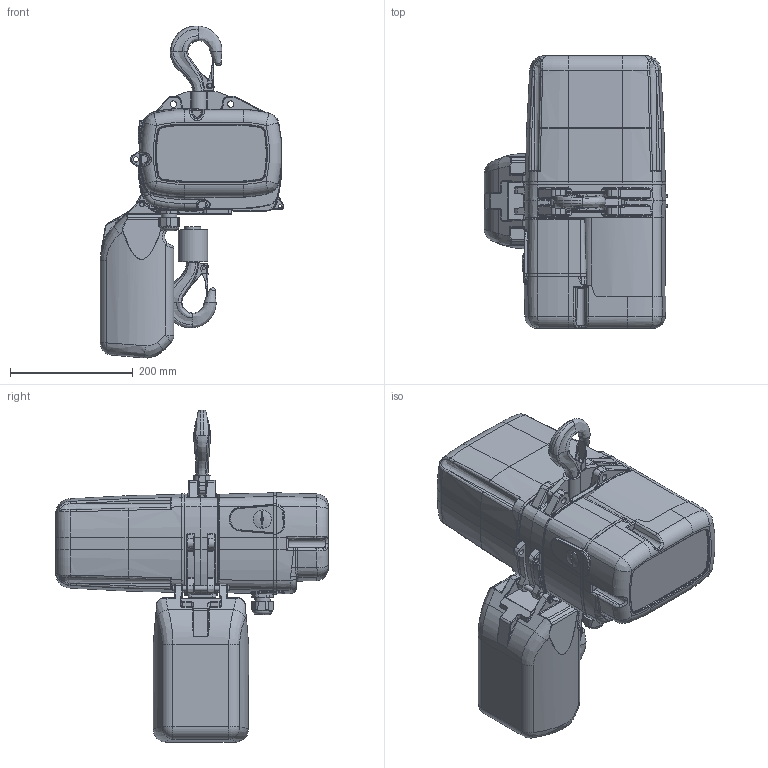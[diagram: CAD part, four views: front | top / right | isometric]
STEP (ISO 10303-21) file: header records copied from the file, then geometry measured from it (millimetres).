
FILE_DESCRIPTION(/* description */ (''),/* implementation_level */ '2;1');
FILE_NAME(/* name */ 'C:\Users\gisjbi\Desktop\L Modelle\GPR 500-1 Aufhängehaken.stp',/* time_stamp */ '2017-02-15T15:20:03+01:00',/* author */ ('gisjbi'),/* organization */ (''),/* preprocessor_version */ 'ST-DEVELOPER v15.6',/* originating_system */ 'Autodesk Inventor 2015',/* authorisation */ '');
FILE_SCHEMA (('CONFIG_CONTROL_DESIGN'));
Length unit declared in the file: millimetre
Products named in the file (4): Aufhängehaken; GPR 500; Klemmstück; Baugruppe10
Assembly tree (3 placements, depth 2):
  Baugruppe10
    Aufhängehaken
    GPR 500
    Klemmstück
Bounding box: 298.82 x 444 x 540.24 mm (x, y, z)
Volume: 18160667.4 mm3; surface area: 651766.5 mm2
Topology: 8 solids, 8 shells, 1655 faces, 4226 edges, 2559 vertices
Faces by surface type: bspline 558, cylinder 419, plane 344, torus 223, cone 96, sphere 15
Full cylindrical faces by diameter (mm): 4.917 x1, 5 x2, 5.5 x2, 5.8 x1, 7.248 x2, 8 x3, 8.5 x4, 10.5 x6, 17 x2, 25 x2, 26 x1, 30 x2, 48 x1, 50 x1
Entity records: 77752 total; most frequent: CARTESIAN_POINT 39166, ORIENTED_EDGE 8218, DIRECTION 7246, EDGE_CURVE 4109, AXIS2_PLACEMENT_3D 3023, VERTEX_POINT 2541, EDGE_LOOP 1772, FACE_OUTER_BOUND 1655
